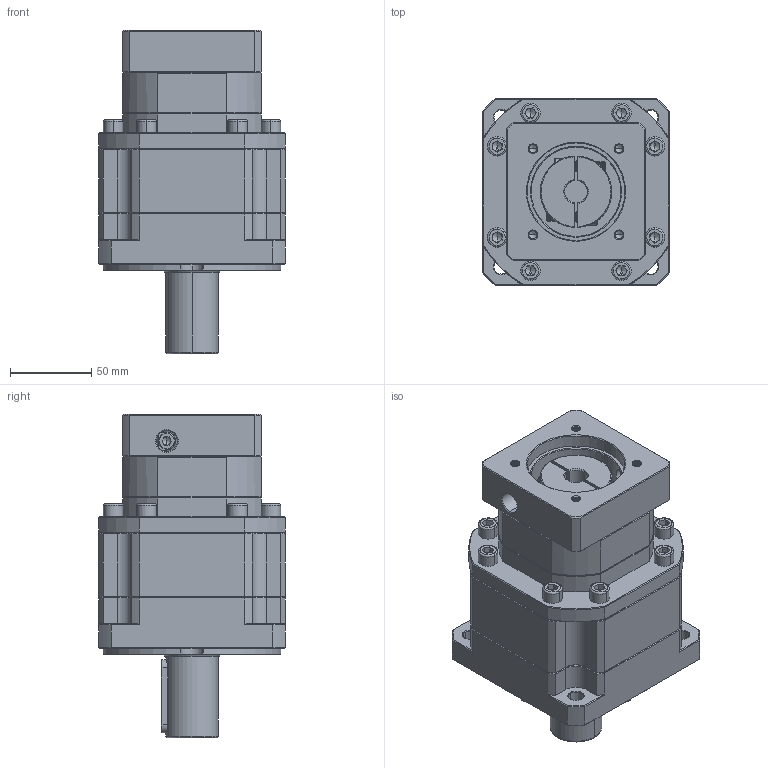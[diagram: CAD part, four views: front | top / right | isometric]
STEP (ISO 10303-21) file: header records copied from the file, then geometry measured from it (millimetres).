
FILE_DESCRIPTION (( 'STEP AP214' ), '1' );
FILE_NAME ('ZB115A-D32-L2-14-60-75-M6.step', '2023-03-03T09:54:46', ( '' ), ( 'Microsoft' ), 'SwSTEP 2.0', 'SolidWorks 2016', '' );
FILE_SCHEMA (( 'AUTOMOTIVE_DESIGN' ));
Length unit declared in the file: millimetre
Products named in the file (1): ZB115A-D32-L2-14-60-75-M6
Bounding box: 115 x 115 x 199 mm (x, y, z)
Volume: 1387392.1 mm3; surface area: 133729.8 mm2
Topology: 5 solids, 6 shells, 2143 faces, 5518 edges, 3472 vertices
Faces by surface type: plane 1006, cylinder 429, cone 364, bspline 329, torus 15
Entity records: 112860 total; most frequent: CARTESIAN_POINT 40129, ORIENTED_EDGE 10960, DIRECTION 8997, EDGE_CURVE 5480, VERTEX_POINT 3472, VECTOR 3417, LINE 3417, AXIS2_PLACEMENT_3D 2790
